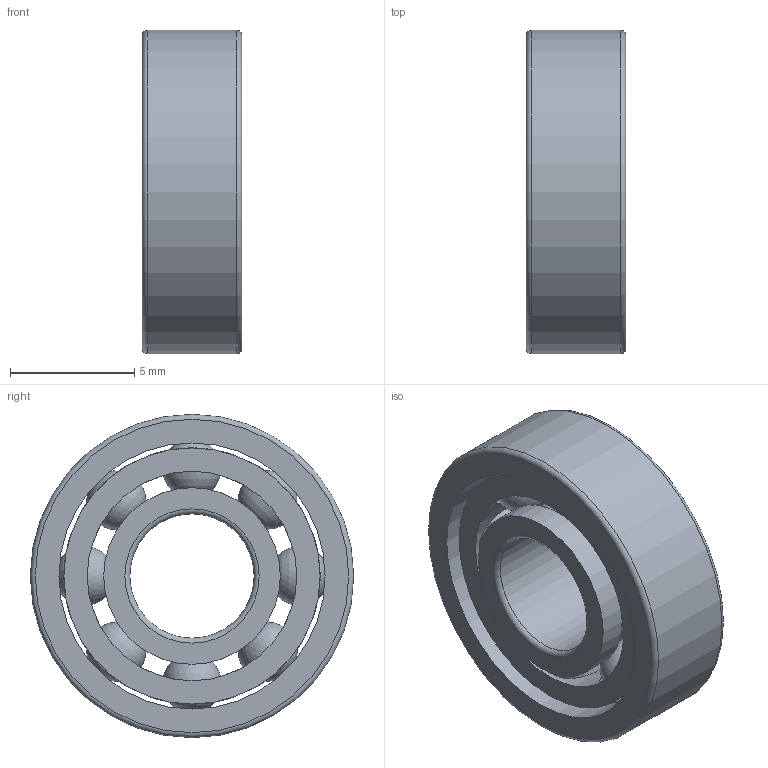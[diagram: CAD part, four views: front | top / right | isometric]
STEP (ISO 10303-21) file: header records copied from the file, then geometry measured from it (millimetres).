
FILE_DESCRIPTION(/* description */ (''),/* implementation_level */ '2;1');
FILE_NAME(/* name */ 'S_6195_TA.step',/* time_stamp */ '2013-03-06T14:46:41+01:00',/* author */ ('Marian'),/* organization */ ('GMN'),/* preprocessor_version */ 'ST-DEVELOPER v11',/* originating_system */ 'SIEMENS UGS NX 6.0',/* authorisation */ '');
FILE_SCHEMA (('CONFIG_CONTROL_DESIGN'));
Length unit declared in the file: millimetre
Products named in the file (1): S_6195_TA
Bounding box: 4 x 13 x 13 mm (x, y, z)
Volume: 321.6 mm3; surface area: 913.3 mm2
Topology: 11 solids, 11 shells, 36 faces, 86 edges, 54 vertices
Faces by surface type: cylinder 15, sphere 8, torus 6, plane 6, cone 1
Full cylindrical faces by diameter (mm): 2.581 x8, 5 x1, 7.1 x2, 8.421 x1, 10.3 x1, 10.7 x1, 13 x1
Entity records: 1730 total; most frequent: CARTESIAN_POINT 1029, DIRECTION 114, FACE_BOUND 80, EDGE_LOOP 72, ORIENTED_EDGE 72, AXIS2_PLACEMENT_3D 57, VERTEX_POINT 44, EDGE_CURVE 36
